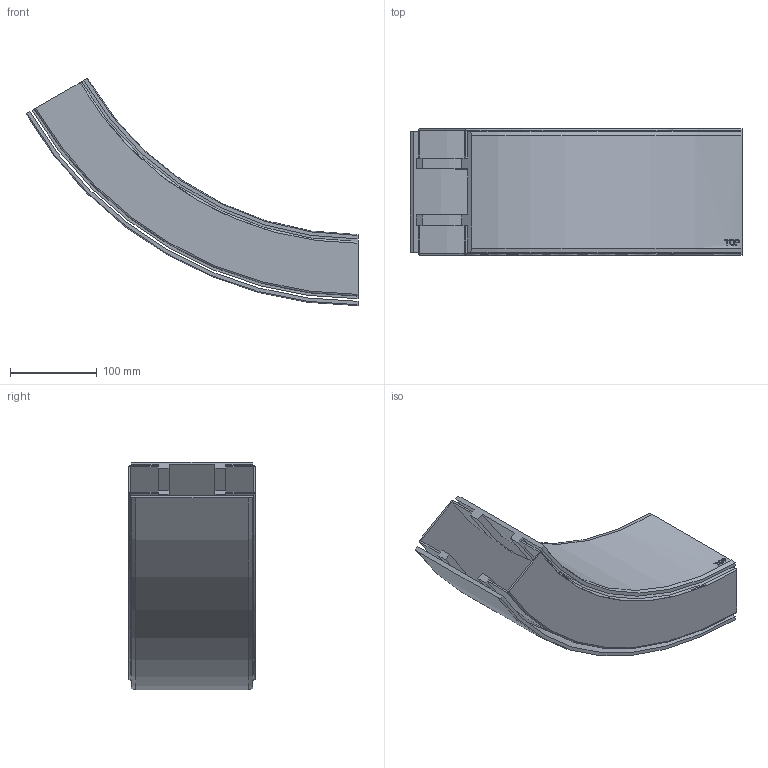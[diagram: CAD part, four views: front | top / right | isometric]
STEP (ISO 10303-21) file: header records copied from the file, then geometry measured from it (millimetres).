
FILE_DESCRIPTION(/* description */ ('VERTIKALKURVA S540 R400'),/* implementation_level */ '2;1');
FILE_NAME(/* name */ '540-5645+140-2000-UPP-01.stp',/* time_stamp */ '2022-09-21T10:40:44+02:00',/* author */ ('Mathias.Dore'),/* organization */ ('CARRYLINE'),/* preprocessor_version */ 'ST-DEVELOPER v19.2',/* originating_system */ 'Autodesk Inventor 2023',/* authorisation */ '');
FILE_SCHEMA (('AUTOMOTIVE_DESIGN { 1 0 10303 214 3 1 1 }'));
Length unit declared in the file: millimetre
Products named in the file (1): 540-5645+140-2000-UPP-01
Bounding box: 383.22 x 146 x 262.25 mm (x, y, z)
Volume: 963325.9 mm3; surface area: 504503.2 mm2
Topology: 2 solids, 2 shells, 87 faces, 234 edges, 156 vertices
Faces by surface type: plane 40, cylinder 25, bspline 14, cone 4, torus 4
Entity records: 7357 total; most frequent: CARTESIAN_POINT 5158, ORIENTED_EDGE 468, DIRECTION 408, EDGE_CURVE 234, VERTEX_POINT 156, AXIS2_PLACEMENT_3D 141, LINE 126, VECTOR 126
